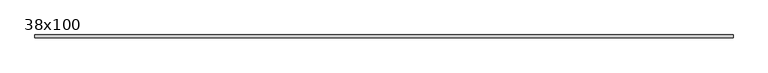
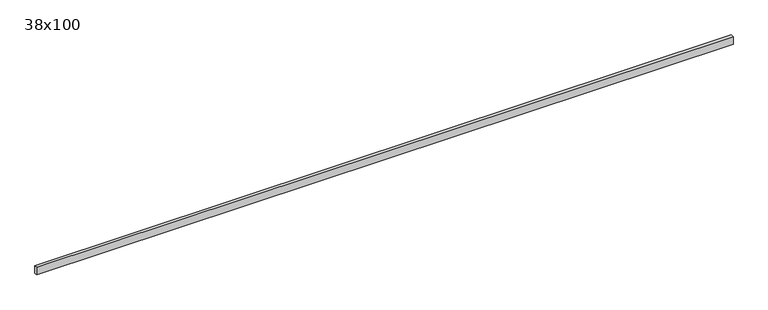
"""IFC4 building model written with IfcOpenShell, lengths in millimetres: beam geometry, Poutre - Bois de construction de dimensions courantes : 38x100."""

from ifc_helpers import new_model, si_unit, frame, origin, place, context, project, spatial, polyline, outline, extrude, source, transform, mapped, element, save


def beam_38x100_098caddc(model_context):
    return source(origin(), model_context, "Body", "SweptSolid", [
        extrude(outline(polyline([(4343.5, 19.05), (4343.5, -19.05), (-4348.5, -19.05), (-4348.5, 19.05), (4343.5, 19.05)])), frame((0.0, 0.0, -50.0), z_axis=(0.0, 0.0, 1.0), x_axis=(1.0, 0.0, 0.0)), (0.0, 0.0, 1.0), 100.0),
    ])


if __name__ == "__main__":
    model = new_model("IFC4")
    model_context = context("Model", 3, world=origin())
    ifc_project = project(units=[si_unit("LENGTHUNIT", "METRE", prefix="MILLI")], contexts=[model_context])
    site = spatial("IfcSite", under=ifc_project)
    building = spatial("IfcBuilding", under=site)
    placement = place(None, origin())
    beam_38x100_shape = beam_38x100_098caddc(model_context)
    element("IfcBeam", 1, ObjectType="Poutre - Bois de construction de dimensions courantes : 38x100", at=placement, inside=building, context=model_context, shape_type="MappedRepresentation", body=[
        mapped(beam_38x100_shape, transform((0.0, 0.0, 0.0), x_axis=(1.0, 0.0, 0.0), y_axis=(0.0, 1.0, 0.0), z_axis=(0.0, 0.0, 1.0))),
    ])
    save(model, "model.ifc")
